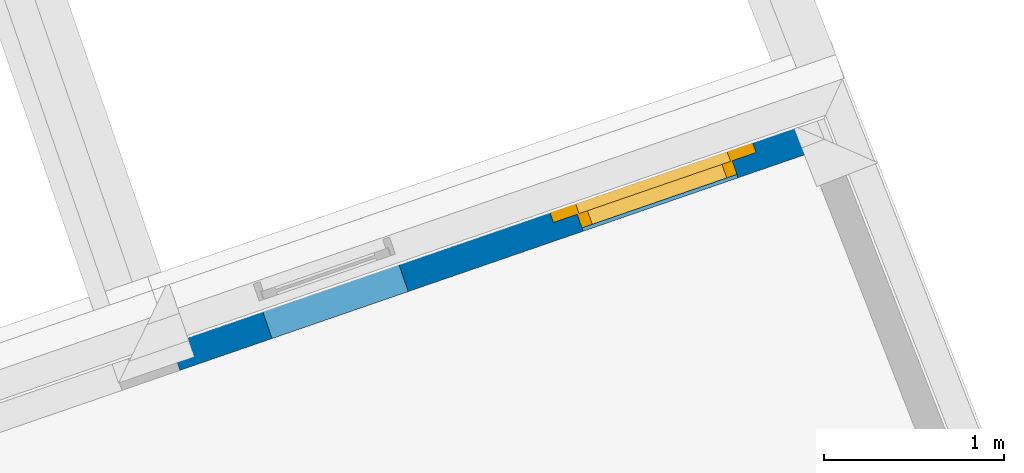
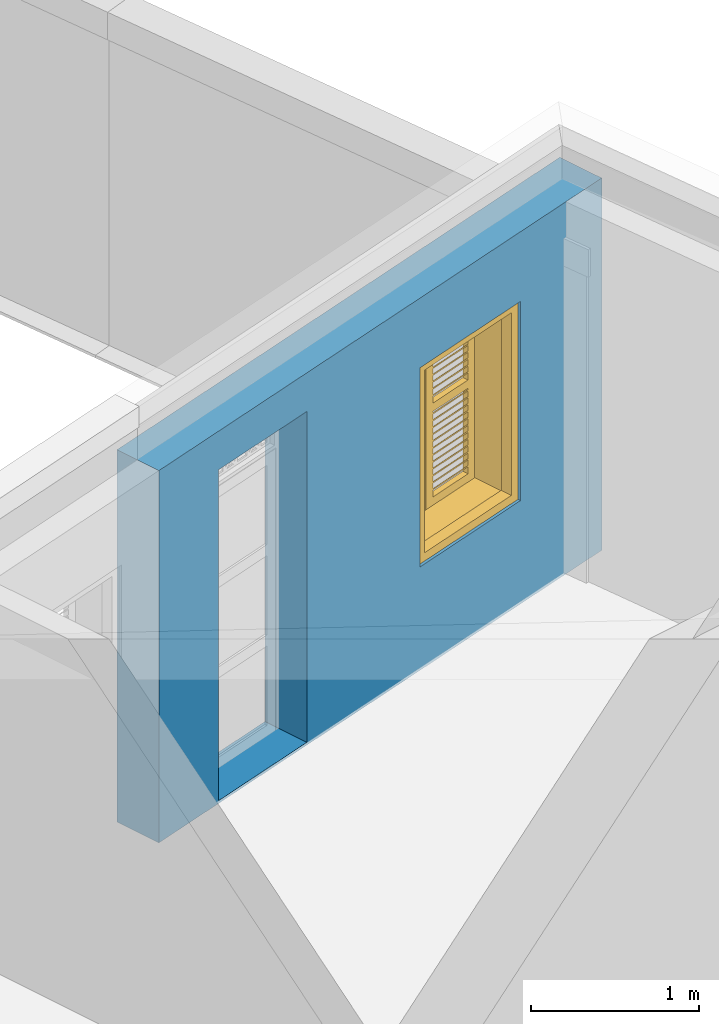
# One storey, part 8 of 16: 1 wall, 1 window, 2 openings.
"""IFC4 building model written with IfcOpenShell, lengths in metres."""

from ifc_helpers import new_model, si_unit, frame, origin, origin_with_axes, place, context, subcontext, project, spatial, polyline, outline, extrude, faceted_brep, source, transform, mapped, material, layer, layer_set, layer_usage, type_object, type_shapes, element, fill, save


model = new_model("IFC4")

# Units and contexts
model_context = context("Model", 3, world=origin_with_axes())
body_context = subcontext(model_context, "Body", "Model", "MODEL_VIEW")
ifc_project = project(units=[si_unit("PLANEANGLEUNIT", "RADIAN"), si_unit("MASSUNIT", "GRAM", prefix="KILO"), si_unit("FORCEUNIT", "NEWTON", prefix="KILO"), si_unit("LENGTHUNIT", "METRE"), si_unit("AREAUNIT", "SQUARE_METRE"), si_unit("VOLUMEUNIT", "CUBIC_METRE")], contexts=[model_context, model_context])

# Site, building, storey
site_placement = place(None, origin_with_axes())
site = spatial("IfcSite", under=ifc_project, at=site_placement, Name="Site plot-8", CompositionType="ELEMENT")
building_placement = place(None, origin_with_axes())
building = spatial("IfcBuilding", under=site, at=building_placement, Name="Building plot-8", CompositionType="ELEMENT")
storey_placement = place(None, frame((0.0, 0.0, 3.0), z_axis=(0.0, 0.0, 1.0), x_axis=(1.0, 0.0, 0.0)))
storey = spatial("IfcBuildingStorey", under=building, at=storey_placement, Name="plot-8 1", CompositionType="ELEMENT", Elevation=3.0)

# Wall, openings, window
ifc_material = material(Name="Masonry")
ifc_layer = layer(ifc_material, 0.33, ventilated=False)
ifc_layer_set = layer_set([ifc_layer], Name="exterior_0.08_0.25")
ifc_layer_usage = layer_usage(ifc_layer_set, "AXIS2", "POSITIVE", -0.25)
wall_type = type_object("IfcWallType", Name="exterior_0.08_0.25", PredefinedType="SOLIDWALL", material=ifc_layer_set)
wall_placement = place(storey_placement, frame((-2.89532817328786, 17.3741512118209, 0.0), z_axis=(0.0, 0.0, 1.0), x_axis=(-0.945331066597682, -0.326112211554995, 0.0)))
wall = element("IfcWall", 1, at=wall_placement, inside=storey, type_object=wall_type, material=ifc_layer_usage, Name="exterior", context=body_context, shape_type="SweptSolid", body=[
    extrude(outline(polyline([(-0.250000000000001, 0.0799999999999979), (-0.25, -0.249999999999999), (3.7639579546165, -0.249999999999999), (3.7639579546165, 0.0799999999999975), (-0.250000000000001, 0.0799999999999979)])), origin_with_axes(), (0.0, 0.0, 1.0), 2.7),
])
opening_1_placement = place(wall_placement, frame((0.485989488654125, 0.0, 0.75)))
opening_1 = element("IfcOpeningElement", 2, at=opening_1_placement, cuts=wall, Name="My Opening", ObjectType="Opening", context=body_context, shape_type="SweptSolid", body=[
    extrude(outline(polyline([(0.0, -0.269999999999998), (0.909999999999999, -0.27), (0.909999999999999, 1.1), (2.22044604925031e-16, 1.1), (0.0, -0.269999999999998)])), origin_with_axes(), (0.0, 0.0, 1.0), 1.445),
])
opening_2_placement = place(wall_placement, frame((2.42296846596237, 0.0, 0.02)))
element("IfcOpeningElement", 3, at=opening_2_placement, cuts=wall, Name="My Opening", ObjectType="Opening", context=body_context, shape_type="SweptSolid", body=[
    extrude(outline(polyline([(0.0, -0.270000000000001), (0.800000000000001, -0.269999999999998), (0.800000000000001, 1.1), (0.0, 1.1), (0.0, -0.270000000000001)])), origin_with_axes(), (0.0, 0.0, 1.0), 2.4),
])
window_type = type_object("IfcWindowType", Name="shuttered_shorter", PartitioningType="DOUBLE_PANEL_HORIZONTAL", PredefinedType="NOTDEFINED")
shared_shape = source(origin(), body_context, "Body", "Brep", [
    faceted_brep([(0.393, 0.0, 0.622), (0.074, 0.0, 0.622), (0.074, 0.0, 0.632), (0.393, 0.0, 0.632), (0.074, -0.04, 0.592), (0.393, -0.04, 0.592), (0.393, -0.04, 0.582), (0.074, -0.04, 0.582), (0.517, 0.0, 0.682), (0.836, 0.0, 0.682), (0.836, 0.0, 0.672), (0.517, 0.0, 0.672), (0.517, -0.04, 0.642), (0.836, -0.04, 0.642), (0.836, -0.04, 0.632), (0.517, -0.04, 0.632), (0.517, 0.0, 0.632), (0.836, 0.0, 0.632), (0.836, 0.0, 0.622), (0.517, 0.0, 0.622), (0.517, -0.04, 0.592), (0.836, -0.04, 0.592), (0.836, -0.04, 0.582), (0.517, -0.04, 0.582), (0.517, 0.0, 0.232), (0.836, 0.0, 0.232), (0.836, 0.0, 0.222), (0.517, 0.0, 0.222), (0.517, -0.04, 0.192), (0.836, -0.04, 0.192), (0.836, -0.04, 0.182), (0.517, -0.04, 0.182), (0.517, 0.0, 0.532), (0.836, 0.0, 0.532), (0.836, 0.0, 0.522), (0.517, 0.0, 0.522), (0.517, -0.04, 0.492), (0.836, -0.04, 0.492), (0.836, -0.04, 0.482), (0.517, -0.04, 0.482), (0.517, 0.0, 0.482), (0.836, 0.0, 0.482), (0.836, 0.0, 0.472), (0.517, 0.0, 0.472), (0.517, -0.04, 0.442), (0.836, -0.04, 0.442), (0.836, -0.04, 0.432), (0.517, -0.04, 0.432), (0.517, 0.0, 0.582), (0.836, 0.0, 0.582), (0.836, 0.0, 0.572), (0.517, 0.0, 0.572), (0.517, -0.04, 0.542), (0.836, -0.04, 0.542), (0.836, -0.04, 0.532), (0.517, -0.04, 0.532), (0.517, 0.0, 0.182), (0.836, 0.0, 0.182), (0.836, 0.0, 0.172), (0.517, 0.0, 0.172), (0.517, -0.04, 0.142), (0.836, -0.04, 0.142), (0.836, -0.04, 0.132), (0.517, -0.04, 0.132), (0.517, 0.0, 0.382), (0.836, 0.0, 0.382), (0.836, 0.0, 0.372), (0.517, 0.0, 0.372), (0.517, -0.04, 0.342), (0.836, -0.04, 0.342), (0.836, -0.04, 0.332), (0.517, -0.04, 0.332), (0.517, 0.0, 0.432), (0.836, 0.0, 0.432), (0.836, 0.0, 0.422), (0.517, 0.0, 0.422), (0.517, -0.04, 0.392), (0.836, -0.04, 0.392), (0.836, -0.04, 0.382), (0.517, -0.04, 0.382), (0.517, 0.0, 0.132), (0.836, 0.0, 0.132), (0.836, 0.0, 0.122), (0.517, 0.0, 0.122), (0.517, -0.04, 0.092), (0.836, -0.04, 0.092), (0.836, -0.04, 0.082), (0.517, -0.04, 0.082), (0.517, 0.0, 0.282), (0.836, 0.0, 0.282), (0.836, 0.0, 0.272), (0.517, 0.0, 0.272), (0.517, -0.04, 0.242), (0.836, -0.04, 0.242), (0.836, -0.04, 0.232), (0.517, -0.04, 0.232), (0.517, 0.0, 0.332), (0.836, 0.0, 0.332), (0.836, 0.0, 0.322), (0.517, 0.0, 0.322), (0.517, -0.04, 0.292), (0.836, -0.04, 0.292), (0.836, -0.04, 0.282), (0.517, -0.04, 0.282), (0.517, 0.0, 1.362667), (0.836, 0.0, 1.362667), (0.836, 0.0, 1.352667), (0.517, 0.0, 1.352667), (0.517, -0.04, 1.322667), (0.836, -0.04, 1.322667), (0.836, -0.04, 1.312667), (0.517, -0.04, 1.312667), (0.517, 0.0, 1.312667), (0.836, 0.0, 1.312667), (0.836, 0.0, 1.302667), (0.517, 0.0, 1.302667), (0.517, -0.04, 1.272667), (0.836, -0.04, 1.272667), (0.836, -0.04, 1.262667), (0.517, -0.04, 1.262667), (0.517, 0.0, 0.912667), (0.836, 0.0, 0.912667), (0.836, 0.0, 0.902667), (0.517, 0.0, 0.902667), (0.517, -0.04, 0.872667), (0.836, -0.04, 0.872667), (0.836, -0.04, 0.862667), (0.517, -0.04, 0.862667), (0.517, 0.0, 1.212667), (0.836, 0.0, 1.212667), (0.836, 0.0, 1.202667), (0.517, 0.0, 1.202667), (0.517, -0.04, 1.172667), (0.836, -0.04, 1.172667), (0.836, -0.04, 1.162667), (0.517, -0.04, 1.162667), (0.517, 0.0, 1.162667), (0.836, 0.0, 1.162667), (0.836, 0.0, 1.152667), (0.517, 0.0, 1.152667), (0.517, -0.04, 1.122667), (0.836, -0.04, 1.122667), (0.836, -0.04, 1.112667), (0.517, -0.04, 1.112667), (0.517, 0.0, 1.262667), (0.836, 0.0, 1.262667), (0.836, 0.0, 1.252667), (0.517, 0.0, 1.252667), (0.517, -0.04, 1.222667), (0.836, -0.04, 1.222667), (0.836, -0.04, 1.212667), (0.517, -0.04, 1.212667), (0.517, 0.0, 0.862667), (0.836, 0.0, 0.862667), (0.836, 0.0, 0.852667), (0.517, 0.0, 0.852667), (0.517, -0.04, 0.822667), (0.836, -0.04, 0.822667), (0.836, -0.04, 0.812667), (0.517, -0.04, 0.812667), (0.517, 0.0, 1.062667), (0.836, 0.0, 1.062667), (0.836, 0.0, 1.052667), (0.517, 0.0, 1.052667), (0.517, -0.04, 1.022667), (0.836, -0.04, 1.022667), (0.836, -0.04, 1.012667), (0.517, -0.04, 1.012667), (0.517, 0.0, 1.112667), (0.836, 0.0, 1.112667), (0.836, 0.0, 1.102667), (0.517, 0.0, 1.102667), (0.517, -0.04, 1.072667), (0.836, -0.04, 1.072667), (0.836, -0.04, 1.062667), (0.517, -0.04, 1.062667), (0.517, 0.0, 0.812667), (0.836, 0.0, 0.812667), (0.836, 0.0, 0.802667), (0.517, 0.0, 0.802667), (0.517, -0.04, 0.772667), (0.836, -0.04, 0.772667), (0.836, -0.04, 0.762667), (0.517, -0.04, 0.762667), (0.517, 0.0, 0.962667), (0.836, 0.0, 0.962667), (0.836, 0.0, 0.952667), (0.517, 0.0, 0.952667), (0.517, -0.04, 0.922667), (0.836, -0.04, 0.922667), (0.836, -0.04, 0.912667), (0.517, -0.04, 0.912667), (0.517, 0.0, 1.012667), (0.836, 0.0, 1.012667), (0.836, 0.0, 1.002667), (0.517, 0.0, 1.002667), (0.517, -0.04, 0.972667), (0.836, -0.04, 0.972667), (0.836, -0.04, 0.962667), (0.517, -0.04, 0.962667), (0.074, 0.0, 0.682), (0.393, 0.0, 0.682), (0.393, 0.0, 0.672), (0.074, 0.0, 0.672), (0.074, -0.04, 0.642), (0.393, -0.04, 0.642), (0.393, -0.04, 0.632), (0.074, -0.04, 0.632), (0.074, 0.0, 0.232), (0.393, 0.0, 0.232), (0.393, 0.0, 0.222), (0.074, 0.0, 0.222), (0.074, -0.04, 0.192), (0.393, -0.04, 0.192), (0.393, -0.04, 0.182), (0.074, -0.04, 0.182), (0.074, 0.0, 0.532), (0.393, 0.0, 0.532), (0.393, 0.0, 0.522), (0.074, 0.0, 0.522), (0.074, -0.04, 0.492), (0.393, -0.04, 0.492), (0.393, -0.04, 0.482), (0.074, -0.04, 0.482), (0.074, 0.0, 0.482), (0.393, 0.0, 0.482), (0.393, 0.0, 0.472), (0.074, 0.0, 0.472), (0.074, -0.04, 0.442), (0.393, -0.04, 0.442), (0.393, -0.04, 0.432), (0.074, -0.04, 0.432), (0.074, 0.0, 0.582), (0.393, 0.0, 0.582), (0.393, 0.0, 0.572), (0.074, 0.0, 0.572), (0.074, -0.04, 0.542), (0.393, -0.04, 0.542), (0.393, -0.04, 0.532), (0.074, -0.04, 0.532), (0.074, 0.0, 0.182), (0.393, 0.0, 0.182), (0.393, 0.0, 0.172), (0.074, 0.0, 0.172), (0.074, -0.04, 0.142), (0.393, -0.04, 0.142), (0.393, -0.04, 0.132), (0.074, -0.04, 0.132), (0.074, 0.0, 0.382), (0.393, 0.0, 0.382), (0.393, 0.0, 0.372), (0.074, 0.0, 0.372), (0.074, -0.04, 0.342), (0.393, -0.04, 0.342), (0.393, -0.04, 0.332), (0.074, -0.04, 0.332), (0.074, 0.0, 0.432), (0.393, 0.0, 0.432), (0.393, 0.0, 0.422), (0.074, 0.0, 0.422), (0.074, -0.04, 0.392), (0.393, -0.04, 0.392), (0.393, -0.04, 0.382), (0.074, -0.04, 0.382), (0.074, 0.0, 0.132), (0.393, 0.0, 0.132), (0.393, 0.0, 0.122), (0.074, 0.0, 0.122), (0.074, -0.04, 0.092), (0.393, -0.04, 0.092), (0.393, -0.04, 0.082), (0.074, -0.04, 0.082), (0.074, 0.0, 0.282), (0.393, 0.0, 0.282), (0.393, 0.0, 0.272), (0.074, 0.0, 0.272), (0.074, -0.04, 0.242), (0.393, -0.04, 0.242), (0.393, -0.04, 0.232), (0.074, -0.04, 0.232), (0.074, 0.0, 0.332), (0.393, 0.0, 0.332), (0.393, 0.0, 0.322), (0.074, 0.0, 0.322), (0.074, -0.04, 0.292), (0.393, -0.04, 0.292), (0.393, -0.04, 0.282), (0.074, -0.04, 0.282), (0.074, 0.0, 1.362667), (0.393, 0.0, 1.362667), (0.393, 0.0, 1.352667), (0.074, 0.0, 1.352667), (0.074, -0.04, 1.322667), (0.393, -0.04, 1.322667), (0.393, -0.04, 1.312667), (0.074, -0.04, 1.312667), (0.074, 0.0, 1.312667), (0.393, 0.0, 1.312667), (0.393, 0.0, 1.302667), (0.074, 0.0, 1.302667), (0.074, -0.04, 1.272667), (0.393, -0.04, 1.272667), (0.393, -0.04, 1.262667), (0.074, -0.04, 1.262667), (0.074, 0.0, 0.912667), (0.393, 0.0, 0.912667), (0.393, 0.0, 0.902667), (0.074, 0.0, 0.902667), (0.074, -0.04, 0.872667), (0.393, -0.04, 0.872667), (0.393, -0.04, 0.862667), (0.074, -0.04, 0.862667), (0.074, 0.0, 1.212667), (0.393, 0.0, 1.212667), (0.393, 0.0, 1.202667), (0.074, 0.0, 1.202667), (0.074, -0.04, 1.172667), (0.393, -0.04, 1.172667), (0.393, -0.04, 1.162667), (0.074, -0.04, 1.162667), (0.074, 0.0, 1.162667), (0.393, 0.0, 1.162667), (0.393, 0.0, 1.152667), (0.074, 0.0, 1.152667), (0.074, -0.04, 1.122667), (0.393, -0.04, 1.122667), (0.393, -0.04, 1.112667), (0.074, -0.04, 1.112667), (0.074, 0.0, 1.262667), (0.393, 0.0, 1.262667), (0.393, 0.0, 1.252667), (0.074, 0.0, 1.252667), (0.074, -0.04, 1.222667), (0.393, -0.04, 1.222667), (0.393, -0.04, 1.212667), (0.074, -0.04, 1.212667), (0.074, 0.0, 0.862667), (0.393, 0.0, 0.862667), (0.393, 0.0, 0.852667), (0.074, 0.0, 0.852667), (0.074, -0.04, 0.822667), (0.393, -0.04, 0.822667), (0.393, -0.04, 0.812667), (0.074, -0.04, 0.812667), (0.074, 0.0, 1.062667), (0.393, 0.0, 1.062667), (0.393, 0.0, 1.052667), (0.074, 0.0, 1.052667), (0.074, -0.04, 1.022667), (0.393, -0.04, 1.022667), (0.393, -0.04, 1.012667), (0.074, -0.04, 1.012667), (0.074, 0.0, 1.112667), (0.393, 0.0, 1.112667), (0.393, 0.0, 1.102667), (0.074, 0.0, 1.102667), (0.074, -0.04, 1.072667), (0.393, -0.04, 1.072667), (0.393, -0.04, 1.062667), (0.074, -0.04, 1.062667), (0.074, 0.0, 0.812667), (0.393, 0.0, 0.812667), (0.393, 0.0, 0.802667), (0.074, 0.0, 0.802667), (0.074, -0.04, 0.772667), (0.393, -0.04, 0.772667), (0.393, -0.04, 0.762667), (0.074, -0.04, 0.762667), (0.074, 0.0, 0.962667), (0.393, 0.0, 0.962667), (0.393, 0.0, 0.952667), (0.074, 0.0, 0.952667), (0.074, -0.04, 0.922667), (0.393, -0.04, 0.922667), (0.393, -0.04, 0.912667), (0.074, -0.04, 0.912667), (0.074, 0.0, 1.012667), (0.393, 0.0, 1.012667), (0.393, 0.0, 1.002667), (0.074, 0.0, 1.002667), (0.074, -0.04, 0.972667), (0.393, -0.04, 0.972667), (0.393, -0.04, 0.962667), (0.074, -0.04, 0.962667), (0.517, -0.04, 0.072), (0.457, -0.04, 0.012), (0.896, -0.04, 0.012), (0.836, -0.04, 0.072), (0.457, -0.04, 0.692667), (0.517, -0.04, 0.692667), (0.457, 0.0, 0.012), (0.896, 0.0, 0.012), (0.836, -0.04, 0.692667), (0.896, -0.04, 0.692667), (0.836, 0.0, 0.072), (0.517, 0.0, 0.072), (0.457, 0.0, 0.692667), (0.517, 0.0, 0.692667), (0.517, -0.04, 0.752666), (0.457, -0.04, 0.752666), (0.896, 0.0, 0.692667), (0.836, 0.0, 0.692667), (0.836, -0.04, 0.752666), (0.896, -0.04, 0.752666), (0.457, 0.0, 0.752666), (0.457, -0.04, 1.433333), (0.517, -0.04, 1.373333), (0.896, 0.0, 0.752666), (0.836, -0.04, 1.373333), (0.896, -0.04, 1.433333), (0.457, 0.0, 1.433333), (0.517, 0.0, 0.752666), (0.836, 0.0, 0.752666), (0.517, 0.0, 1.373333), (0.896, 0.0, 1.433333), (0.836, 0.0, 1.373333), (0.074, -0.04, 0.072), (0.014, -0.04, 0.012), (0.453, -0.04, 0.012), (0.393, -0.04, 0.072), (0.014, -0.04, 0.692667), (0.074, -0.04, 0.692667), (0.014, 0.0, 0.012), (0.453, 0.0, 0.012), (0.393, -0.04, 0.692667), (0.453, -0.04, 0.692667), (0.393, 0.0, 0.072), (0.074, 0.0, 0.072), (0.014, 0.0, 0.692667), (0.074, 0.0, 0.692667), (0.074, -0.04, 0.752666), (0.014, -0.04, 0.752666), (0.453, 0.0, 0.692667), (0.393, 0.0, 0.692667), (0.393, -0.04, 0.752666), (0.453, -0.04, 0.752666), (0.014, 0.0, 0.752666), (0.014, -0.04, 1.433333), (0.074, -0.04, 1.373333), (0.453, 0.0, 0.752666), (0.393, -0.04, 1.373333), (0.453, -0.04, 1.433333), (0.014, 0.0, 1.433333), (0.074, 0.0, 0.752666), (0.393, 0.0, 0.752666), (0.074, 0.0, 1.373333), (0.453, 0.0, 1.433333), (0.393, 0.0, 1.373333), (0.0, 0.33, 1.445), (0.91, 0.33, 1.445), (0.85, 0.33, 1.385), (0.06, 0.33, 1.385), (0.91, 0.25, 1.445), (0.0, 0.25, 1.445), (0.91, 0.25, 1.445), (0.85, 0.33, 0.06), (0.91, 0.33, 0.0), (0.85, 0.25, 1.385), (0.06, 0.25, 1.385), (0.0, 0.33, 0.0), (0.06, 0.33, 0.06), (0.0, 0.25, 0.0), (0.91, 0.25, 0.0), (0.85, 0.25, 0.06), (0.06, 0.25, 0.06), (1.05, 0.25, 1.585), (-0.14, 0.25, 1.585), (-0.14, -0.03, 1.585), (1.05, -0.03, 1.585), (0.9, -0.03, 1.435), (0.01, -0.03, 1.435), (0.01, 0.25, 1.435), (0.9, 0.25, 1.435), (0.9, 0.25, 0.01), (0.9, -0.03, 0.01), (1.05, -0.03, -0.14), (1.05, 0.25, -0.14), (0.01, -0.03, 0.01), (0.01, 0.25, 0.01), (-0.14, -0.03, -0.14), (-0.14, 0.25, -0.14)], [[[0, 1, 2, 3]], [[4, 5, 3, 2]], [[5, 6, 0, 3]], [[1, 0, 6, 7]], [[2, 1, 7, 4]], [[5, 4, 7, 6]], [[8, 9, 10, 11]], [[12, 13, 9, 8]], [[13, 14, 10, 9]], [[14, 15, 11, 10]], [[15, 12, 8, 11]], [[13, 12, 15, 14]], [[16, 17, 18, 19]], [[20, 21, 17, 16]], [[21, 22, 18, 17]], [[22, 23, 19, 18]], [[23, 20, 16, 19]], [[21, 20, 23, 22]], [[24, 25, 26, 27]], [[28, 29, 25, 24]], [[29, 30, 26, 25]], [[30, 31, 27, 26]], [[31, 28, 24, 27]], [[29, 28, 31, 30]], [[32, 33, 34, 35]], [[36, 37, 33, 32]], [[37, 38, 34, 33]], [[38, 39, 35, 34]], [[39, 36, 32, 35]], [[37, 36, 39, 38]], [[40, 41, 42, 43]], [[44, 45, 41, 40]], [[45, 46, 42, 41]], [[46, 47, 43, 42]], [[47, 44, 40, 43]], [[45, 44, 47, 46]], [[48, 49, 50, 51]], [[52, 53, 49, 48]], [[53, 54, 50, 49]], [[54, 55, 51, 50]], [[55, 52, 48, 51]], [[53, 52, 55, 54]], [[56, 57, 58, 59]], [[60, 61, 57, 56]], [[61, 62, 58, 57]], [[62, 63, 59, 58]], [[63, 60, 56, 59]], [[61, 60, 63, 62]], [[64, 65, 66, 67]], [[68, 69, 65, 64]], [[69, 70, 66, 65]], [[70, 71, 67, 66]], [[71, 68, 64, 67]], [[69, 68, 71, 70]], [[72, 73, 74, 75]], [[76, 77, 73, 72]], [[77, 78, 74, 73]], [[78, 79, 75, 74]], [[79, 76, 72, 75]], [[77, 76, 79, 78]], [[80, 81, 82, 83]], [[84, 85, 81, 80]], [[85, 86, 82, 81]], [[86, 87, 83, 82]], [[87, 84, 80, 83]], [[85, 84, 87, 86]], [[88, 89, 90, 91]], [[92, 93, 89, 88]], [[93, 94, 90, 89]], [[94, 95, 91, 90]], [[95, 92, 88, 91]], [[93, 92, 95, 94]], [[96, 97, 98, 99]], [[100, 101, 97, 96]], [[101, 102, 98, 97]], [[102, 103, 99, 98]], [[103, 100, 96, 99]], [[101, 100, 103, 102]], [[104, 105, 106, 107]], [[108, 109, 105, 104]], [[109, 110, 106, 105]], [[110, 111, 107, 106]], [[111, 108, 104, 107]], [[109, 108, 111, 110]], [[112, 113, 114, 115]], [[116, 117, 113, 112]], [[117, 118, 114, 113]], [[118, 119, 115, 114]], [[119, 116, 112, 115]], [[117, 116, 119, 118]], [[120, 121, 122, 123]], [[124, 125, 121, 120]], [[125, 126, 122, 121]], [[126, 127, 123, 122]], [[127, 124, 120, 123]], [[125, 124, 127, 126]], [[128, 129, 130, 131]], [[132, 133, 129, 128]], [[133, 134, 130, 129]], [[134, 135, 131, 130]], [[135, 132, 128, 131]], [[133, 132, 135, 134]], [[136, 137, 138, 139]], [[140, 141, 137, 136]], [[141, 142, 138, 137]], [[142, 143, 139, 138]], [[139, 143, 140, 136]], [[141, 140, 143, 142]], [[144, 145, 146, 147]], [[148, 149, 145, 144]], [[149, 150, 146, 145]], [[150, 151, 147, 146]], [[151, 148, 144, 147]], [[149, 148, 151, 150]], [[152, 153, 154, 155]], [[156, 157, 153, 152]], [[157, 158, 154, 153]], [[158, 159, 155, 154]], [[159, 156, 152, 155]], [[157, 156, 159, 158]], [[160, 161, 162, 163]], [[164, 165, 161, 160]], [[165, 166, 162, 161]], [[166, 167, 163, 162]], [[167, 164, 160, 163]], [[165, 164, 167, 166]], [[168, 169, 170, 171]], [[172, 173, 169, 168]], [[173, 174, 170, 169]], [[174, 175, 171, 170]], [[175, 172, 168, 171]], [[173, 172, 175, 174]], [[176, 177, 178, 179]], [[180, 181, 177, 176]], [[181, 182, 178, 177]], [[182, 183, 179, 178]], [[183, 180, 176, 179]], [[181, 180, 183, 182]], [[184, 185, 186, 187]], [[188, 189, 185, 184]], [[189, 190, 186, 185]], [[190, 191, 187, 186]], [[191, 188, 184, 187]], [[189, 188, 191, 190]], [[192, 193, 194, 195]], [[196, 197, 193, 192]], [[197, 198, 194, 193]], [[198, 199, 195, 194]], [[199, 196, 192, 195]], [[197, 196, 199, 198]], [[200, 201, 202, 203]], [[204, 205, 201, 200]], [[205, 206, 202, 201]], [[206, 207, 203, 202]], [[207, 204, 200, 203]], [[205, 204, 207, 206]], [[208, 209, 210, 211]], [[212, 213, 209, 208]], [[213, 214, 210, 209]], [[214, 215, 211, 210]], [[215, 212, 208, 211]], [[213, 212, 215, 214]], [[216, 217, 218, 219]], [[220, 221, 217, 216]], [[221, 222, 218, 217]], [[222, 223, 219, 218]], [[223, 220, 216, 219]], [[221, 220, 223, 222]], [[224, 225, 226, 227]], [[228, 229, 225, 224]], [[229, 230, 226, 225]], [[230, 231, 227, 226]], [[231, 228, 224, 227]], [[229, 228, 231, 230]], [[232, 233, 234, 235]], [[236, 237, 233, 232]], [[237, 238, 234, 233]], [[238, 239, 235, 234]], [[239, 236, 232, 235]], [[237, 236, 239, 238]], [[240, 241, 242, 243]], [[244, 245, 241, 240]], [[245, 246, 242, 241]], [[246, 247, 243, 242]], [[247, 244, 240, 243]], [[245, 244, 247, 246]], [[248, 249, 250, 251]], [[252, 253, 249, 248]], [[253, 254, 250, 249]], [[254, 255, 251, 250]], [[255, 252, 248, 251]], [[253, 252, 255, 254]], [[256, 257, 258, 259]], [[260, 261, 257, 256]], [[261, 262, 258, 257]], [[262, 263, 259, 258]], [[263, 260, 256, 259]], [[261, 260, 263, 262]], [[264, 265, 266, 267]], [[268, 269, 265, 264]], [[269, 270, 266, 265]], [[270, 271, 267, 266]], [[271, 268, 264, 267]], [[269, 268, 271, 270]], [[272, 273, 274, 275]], [[276, 277, 273, 272]], [[277, 278, 274, 273]], [[278, 279, 275, 274]], [[279, 276, 272, 275]], [[277, 276, 279, 278]], [[280, 281, 282, 283]], [[284, 285, 281, 280]], [[285, 286, 282, 281]], [[286, 287, 283, 282]], [[287, 284, 280, 283]], [[285, 284, 287, 286]], [[288, 289, 290, 291]], [[292, 293, 289, 288]], [[293, 294, 290, 289]], [[294, 295, 291, 290]], [[295, 292, 288, 291]], [[293, 292, 295, 294]], [[296, 297, 298, 299]], [[300, 301, 297, 296]], [[301, 302, 298, 297]], [[302, 303, 299, 298]], [[303, 300, 296, 299]], [[301, 300, 303, 302]], [[304, 305, 306, 307]], [[308, 309, 305, 304]], [[309, 310, 306, 305]], [[310, 311, 307, 306]], [[311, 308, 304, 307]], [[309, 308, 311, 310]], [[312, 313, 314, 315]], [[316, 317, 313, 312]], [[317, 318, 314, 313]], [[318, 319, 315, 314]], [[319, 316, 312, 315]], [[317, 316, 319, 318]], [[320, 321, 322, 323]], [[324, 325, 321, 320]], [[325, 326, 322, 321]], [[326, 327, 323, 322]], [[327, 324, 320, 323]], [[325, 324, 327, 326]], [[328, 329, 330, 331]], [[332, 333, 329, 328]], [[333, 334, 330, 329]], [[334, 335, 331, 330]], [[335, 332, 328, 331]], [[333, 332, 335, 334]], [[336, 337, 338, 339]], [[340, 341, 337, 336]], [[341, 342, 338, 337]], [[342, 343, 339, 338]], [[343, 340, 336, 339]], [[341, 340, 343, 342]], [[344, 345, 346, 347]], [[348, 349, 345, 344]], [[349, 350, 346, 345]], [[350, 351, 347, 346]], [[351, 348, 344, 347]], [[349, 348, 351, 350]], [[352, 353, 354, 355]], [[356, 357, 353, 352]], [[357, 358, 354, 353]], [[358, 359, 355, 354]], [[359, 356, 352, 355]], [[357, 356, 359, 358]], [[360, 361, 362, 363]], [[364, 365, 361, 360]], [[365, 366, 362, 361]], [[366, 367, 363, 362]], [[367, 364, 360, 363]], [[365, 364, 367, 366]], [[368, 369, 370, 371]], [[372, 373, 369, 368]], [[373, 374, 370, 369]], [[374, 375, 371, 370]], [[375, 372, 368, 371]], [[373, 372, 375, 374]], [[376, 377, 378, 379]], [[380, 381, 377, 376]], [[381, 382, 378, 377]], [[382, 383, 379, 378]], [[383, 380, 376, 379]], [[381, 380, 383, 382]], [[384, 385, 386, 387]], [[388, 385, 384, 389]], [[390, 391, 386, 385]], [[392, 387, 386, 393]], [[384, 387, 394, 395]], [[390, 385, 388, 396]], [[389, 384, 395, 397]], [[389, 398, 399, 388]], [[390, 395, 394, 391]], [[400, 393, 386, 391]], [[387, 392, 401, 394]], [[402, 392, 393, 403]], [[396, 388, 399, 404]], [[390, 396, 397, 395]], [[392, 389, 397, 401]], [[398, 389, 392, 402]], [[405, 399, 398, 406]], [[394, 401, 400, 391]], [[407, 403, 393, 400]], [[408, 402, 403, 409]], [[404, 399, 405, 410]], [[411, 397, 396, 404]], [[397, 411, 412, 401]], [[398, 402, 412, 411]], [[406, 398, 411, 413]], [[405, 406, 408, 409]], [[401, 412, 407, 400]], [[414, 409, 403, 407]], [[402, 408, 415, 412]], [[405, 409, 414, 410]], [[404, 410, 413, 411]], [[408, 406, 413, 415]], [[412, 415, 414, 407]], [[413, 410, 414, 415]], [[416, 417, 418, 419]], [[420, 417, 416, 421]], [[422, 423, 418, 417]], [[424, 419, 418, 425]], [[416, 419, 426, 427]], [[422, 417, 420, 428]], [[421, 416, 427, 429]], [[421, 430, 431, 420]], [[422, 427, 426, 423]], [[432, 425, 418, 423]], [[419, 424, 433, 426]], [[434, 424, 425, 435]], [[428, 420, 431, 436]], [[422, 428, 429, 427]], [[424, 421, 429, 433]], [[430, 421, 424, 434]], [[437, 431, 430, 438]], [[426, 433, 432, 423]], [[439, 435, 425, 432]], [[440, 434, 435, 441]], [[436, 431, 437, 442]], [[443, 429, 428, 436]], [[429, 443, 444, 433]], [[430, 434, 444, 443]], [[438, 430, 443, 445]], [[437, 438, 440, 441]], [[433, 444, 439, 432]], [[446, 441, 435, 439]], [[434, 440, 447, 444]], [[437, 441, 446, 442]], [[436, 442, 445, 443]], [[440, 438, 445, 447]], [[444, 447, 446, 439]], [[445, 442, 446, 447]], [[448, 449, 450, 451]], [[452, 449, 448]], [[448, 453, 454]], [[448, 454, 452]], [[455, 450, 449, 456]], [[451, 450, 457, 458]], [[459, 448, 451, 460]], [[448, 459, 461, 453]], [[454, 453, 458, 457]], [[462, 452, 454]], [[454, 457, 463]], [[454, 463, 462]], [[456, 449, 452, 462]], [[450, 455, 463, 457]], [[456, 459, 460, 455]], [[460, 451, 458, 464]], [[459, 456, 462, 461]], [[464, 458, 453, 461]], [[461, 462, 463, 464]], [[455, 460, 464, 463]], [[465, 466, 467, 468]], [[469, 470, 471, 472]], [[473, 474, 469, 472]], [[465, 468, 475, 476]], [[470, 477, 478, 471]], [[474, 473, 478, 477]], [[474, 477, 479, 475]], [[470, 467, 479, 477]], [[470, 469, 468, 467]], [[474, 475, 468, 469]], [[471, 478, 480, 466]], [[473, 472, 465, 476]], [[473, 476, 480, 478]], [[466, 465, 472, 471]], [[480, 476, 475, 479]], [[480, 479, 467, 466]]]),
])
type_shapes(window_type, [shared_shape])
window_placement = place(storey_placement, frame((-3.44279943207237, 17.4709034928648, 0.75), z_axis=(0.0, 0.0, 1.0), x_axis=(-0.86025127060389, -0.296762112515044, 0.0)))
window = element("IfcWindow", 4, at=window_placement, inside=storey, type_object=window_type, Name="bedroom sahn window", OverallHeight=1.445, OverallWidth=0.91, context=body_context, shape_type="MappedRepresentation", body=[
    mapped(shared_shape, transform((0.0, 0.0, 0.0), scale=1.0)),
])
fill(opening_1, window)

save(model, "model.ifc")
